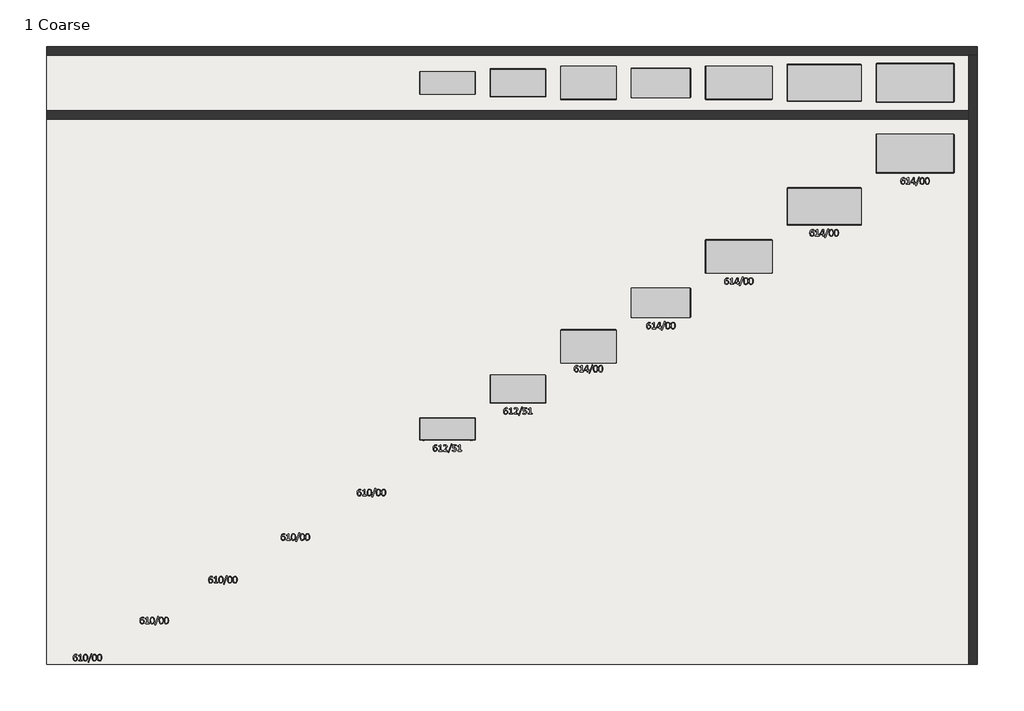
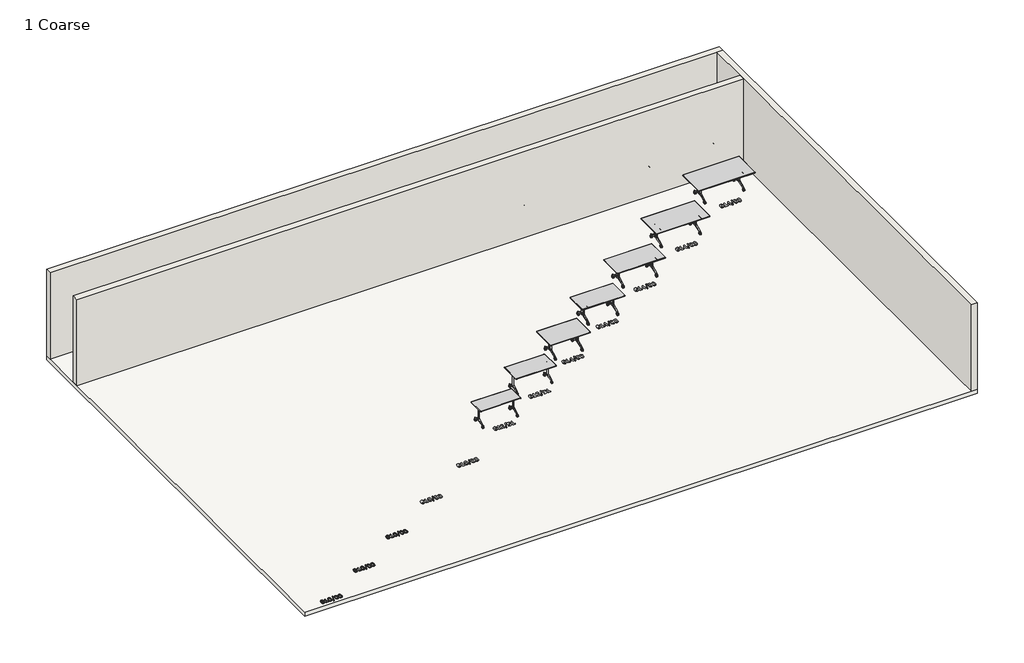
# One storey, part 1 of 3: 14 furniture elements, 3 proxies, 3 walls, 1 slab.
"""IFC4 building model written with IfcOpenShell, lengths in millimetres."""

from ifc_helpers import new_model, si_unit, frame, origin, origin_with_axes, place, context, project, spatial, polyline, outline, extrude, faceted_brep, transform, mapped, element, save
from components import furniture_fc034d58, furniture_6ae0472c, furniture_98f6b03f, furniture_4abeb202, furniture_3bb7f51b, furniture_f0da9923, furniture_7824c613, furniture_df3bc406, furniture_5a756c34, furniture_36a09803, furniture_ef3f2d50, furniture_3c179d77

model = new_model("IFC4")

# Units and contexts
model_context = context("Model", 3, world=origin())
ifc_project = project(units=[si_unit("LENGTHUNIT", "METRE", prefix="MILLI")], contexts=[model_context])

# Site, building, storey
site = spatial("IfcSite", under=ifc_project)
building = spatial("IfcBuilding", under=site)
storey = spatial("IfcBuildingStorey", under=building, Name="1 Coarse", Elevation=0.0)

# Proxies
placement = place(None, origin())
element("IfcBuildingElementProxy", 1, Name="200mm Arial", ObjectType="200mm Arial", at=placement, inside=storey, context=model_context, shape_type="SweptSolid", body=[
    extrude(outline(polyline([(-1646.5056259, -11263.2457008), (-1649.9123882, -11285.1463156), (-1660.4144374, -11303.7682418), (-1678.3959948, -11316.6780779), (-1704.0875931, -11321.5448812), (-1722.8375931, -11318.8809468), (-1737.0025522, -11311.2989795), (-1747.017921, -11299.2088156), (-1753.4472243, -11282.8409877), (-1756.9308308, -11262.7334058), (-1757.9810358, -11239.3215205), (-1756.8283718, -11216.9854549), (-1752.6787817, -11195.1616845), (-1744.5845194, -11175.412709), (-1731.8027571, -11159.3266435), (-1713.3857489, -11148.4916025), (-1688.4113636, -11144.4957008), (-1678.7289866, -11145.0336107), (-1669.6613636, -11146.4680369), (-1662.6685358, -11148.440373), (-1658.9287817, -11150.1821763), (-1657.5711997, -11151.6166025), (-1656.8539866, -11153.2815615), (-1656.4697653, -11155.3307418), (-1656.3416915, -11158.12275), (-1656.4185358, -11161.9649631), (-1656.9308308, -11164.7057418), (-1658.0834948, -11166.2682418), (-1659.9277571, -11166.7805369), (-1663.7955849, -11165.8584058), (-1669.7125931, -11163.8348402), (-1678.1398472, -11161.8112746), (-1689.6408718, -11160.8891435), (-1710.2351341, -11166.1145533), (-1724.3232489, -11180.1514386), (-1732.4175112, -11200.5920123), (-1735.4400522, -11224.4137336), (-1727.7812407, -11220.4434468), (-1718.4574702, -11216.9086107), (-1707.8017325, -11214.3471353), (-1695.7371833, -11213.3481599), (-1672.5814456, -11217.1391435), (-1657.3150522, -11227.6411927), (-1648.9902571, -11243.4711107), (-1646.5056259, -11263.2457008)]), holes=[polyline([(-1669.4564456, -11263.9116845), (-1670.9677161, -11249.7979549), (-1675.9882079, -11238.9885287), (-1685.3888227, -11232.1493894), (-1699.8867735, -11229.7416025), (-1709.5435358, -11230.6125041), (-1718.892921, -11233.020291), (-1727.5250931, -11236.6319713), (-1735.0302161, -11241.1145533), (-1732.8785768, -11270.0848402), (-1726.602962, -11288.7836107), (-1716.3570604, -11298.850209), (-1701.9871833, -11301.87275), (-1687.4892325, -11298.645291), (-1677.2945604, -11289.9875041), (-1671.3519374, -11277.7948812), (-1669.4564456, -11263.9116845)])]), origin_with_axes(), (0.0, 0.0, 1.0), 25.0),
    extrude(outline(polyline([(-1512.0793964, -11308.5838156), (-1512.4636177, -11313.1432418), (-1513.5138227, -11316.1401681), (-1515.0250931, -11317.7795123), (-1516.7925112, -11318.2661927), (-1605.7269374, -11318.2661927), (-1607.4175112, -11317.7795123), (-1608.9287817, -11316.1401681), (-1610.0558308, -11313.1432418), (-1610.4400522, -11308.5838156), (-1610.0558308, -11304.1524631), (-1609.0824702, -11301.0786927), (-1607.6736587, -11299.2344304), (-1605.8293964, -11298.5940615), (-1571.0957899, -11298.5940615), (-1571.0957899, -11170.725209), (-1602.7043964, -11190.3973402), (-1606.5722243, -11191.9598402), (-1608.9287817, -11191.3707008), (-1610.1326751, -11188.5786927), (-1610.4400522, -11183.6862746), (-1610.2607489, -11179.9465205), (-1609.6972243, -11177.3594304), (-1608.6214046, -11175.5407828), (-1606.7515276, -11174.0038976), (-1568.99538, -11149.3112746), (-1565.6398472, -11148.1842254), (-1562.847839, -11147.8512336), (-1558.8519374, -11147.7743894), (-1553.4984538, -11148.0305369), (-1550.1685358, -11148.74775), (-1548.5548063, -11149.9260287), (-1548.5548063, -11298.5940615), (-1516.8949702, -11298.5940615), (-1514.8970194, -11299.2344304), (-1513.3601341, -11301.0786927), (-1512.4123882, -11304.1524631), (-1512.0793964, -11308.5838156)])), origin_with_axes(), (0.0, 0.0, 1.0), 25.0),
    extrude(outline(polyline([(-1367.8171013, -11232.6104549), (-1370.9164866, -11268.7784877), (-1381.2136177, -11296.877873), (-1389.5127981, -11307.3094816), (-1400.0148472, -11315.0899631), (-1412.9695091, -11319.9311517), (-1428.6265276, -11321.5448812), (-1443.4446628, -11320.0976476), (-1455.7269374, -11315.7559468), (-1465.665462, -11308.6094304), (-1473.4523472, -11298.74775), (-1483.0066505, -11271.1094304), (-1485.8498882, -11233.4301271), (-1482.6736587, -11197.3389386), (-1472.3765276, -11169.162709), (-1464.1349804, -11158.7311004), (-1453.6521423, -11150.9506189), (-1440.7359026, -11146.1094304), (-1425.1941505, -11144.4957008), (-1410.2607489, -11145.9429345), (-1397.9400522, -11150.2846353), (-1388.0015276, -11157.4311517), (-1380.2146423, -11167.292832), (-1370.660339, -11194.9311517), (-1367.8171013, -11232.6104549)]), holes=[polyline([(-1390.767921, -11234.1985697), (-1391.6900522, -11211.3758238), (-1394.4052161, -11193.5223402), (-1399.0671013, -11180.2282828), (-1405.9062407, -11171.0582008), (-1414.9994784, -11165.8071763), (-1426.5261177, -11164.167832), (-1444.8406669, -11169.4188566), (-1455.9318554, -11183.8399631), (-1461.4390276, -11205.3307418), (-1462.8990686, -11231.8420123), (-1460.9011177, -11264.167832), (-1454.5998882, -11285.8891435), (-1443.585544, -11298.0817664), (-1427.2945604, -11301.87275), (-1414.205421, -11299.5161927), (-1404.4974292, -11292.7538976), (-1397.8119784, -11282.2006189), (-1393.5599292, -11268.5735697), (-1391.3570604, -11252.3594304), (-1390.767921, -11234.1985697)])]), origin_with_axes(), (0.0, 0.0, 1.0), 25.0),
    extrude(outline(polyline([(-1335.9011177, -11349.1063566), (-1337.3099292, -11351.770291), (-1339.4615686, -11353.2815615), (-1342.6890276, -11354.0756189), (-1347.3252981, -11354.3317664), (-1352.7812407, -11353.8707008), (-1356.1367735, -11352.5643484), (-1357.5711997, -11350.4639386), (-1357.0589046, -11347.5182418), (-1277.6531669, -11130.0489795), (-1276.2443554, -11127.3850451), (-1274.1439456, -11125.8225451), (-1270.9421013, -11125.0284877), (-1266.2289866, -11124.8235697), (-1260.8498882, -11125.2846353), (-1257.5711997, -11126.5397582), (-1256.1111587, -11128.6401681), (-1256.49538, -11131.6370943), (-1335.9011177, -11349.1063566)])), origin_with_axes(), (0.0, 0.0, 1.0), 25.0),
    extrude(outline(polyline([(-1125.1941505, -11232.6104549), (-1128.2935358, -11268.7784877), (-1138.5906669, -11296.877873), (-1146.8898472, -11307.3094816), (-1157.3918964, -11315.0899631), (-1170.3465583, -11319.9311517), (-1186.0035768, -11321.5448812), (-1200.821712, -11320.0976476), (-1213.1039866, -11315.7559468), (-1223.0425112, -11308.6094304), (-1230.8293964, -11298.74775), (-1240.3836997, -11271.1094304), (-1243.2269374, -11233.4301271), (-1240.0507079, -11197.3389386), (-1229.7535768, -11169.162709), (-1221.5120296, -11158.7311004), (-1211.0291915, -11150.9506189), (-1198.1129518, -11146.1094304), (-1182.5711997, -11144.4957008), (-1167.6377981, -11145.9429345), (-1155.3171013, -11150.2846353), (-1145.3785768, -11157.4311517), (-1137.5916915, -11167.292832), (-1128.0373882, -11194.9311517), (-1125.1941505, -11232.6104549)]), holes=[polyline([(-1148.1449702, -11234.1985697), (-1149.0671013, -11211.3758238), (-1151.7822653, -11193.5223402), (-1156.4441505, -11180.2282828), (-1163.2832899, -11171.0582008), (-1172.3765276, -11165.8071763), (-1183.9031669, -11164.167832), (-1202.2177161, -11169.4188566), (-1213.3089046, -11183.8399631), (-1218.8160768, -11205.3307418), (-1220.2761177, -11231.8420123), (-1218.2781669, -11264.167832), (-1211.9769374, -11285.8891435), (-1200.9625931, -11298.0817664), (-1184.6716095, -11301.87275), (-1171.5824702, -11299.5161927), (-1161.8744784, -11292.7538976), (-1155.1890276, -11282.2006189), (-1150.9369784, -11268.5735697), (-1148.7341095, -11252.3594304), (-1148.1449702, -11234.1985697)])]), origin_with_axes(), (0.0, 0.0, 1.0), 25.0),
    extrude(outline(polyline([(-987.4892325, -11232.6104549), (-990.5886177, -11268.7784877), (-1000.8857489, -11296.877873), (-1009.1849292, -11307.3094816), (-1019.6869784, -11315.0899631), (-1032.6416403, -11319.9311517), (-1048.2986587, -11321.5448812), (-1063.116794, -11320.0976476), (-1075.3990686, -11315.7559468), (-1085.3375931, -11308.6094304), (-1093.1244784, -11298.74775), (-1102.6787817, -11271.1094304), (-1105.5220194, -11233.4301271), (-1102.3457899, -11197.3389386), (-1092.0486587, -11169.162709), (-1083.8071116, -11158.7311004), (-1073.3242735, -11150.9506189), (-1060.4080337, -11146.1094304), (-1044.8662817, -11144.4957008), (-1029.93288, -11145.9429345), (-1017.6121833, -11150.2846353), (-1007.6736587, -11157.4311517), (-999.8867735, -11167.292832), (-990.3324702, -11194.9311517), (-987.4892325, -11232.6104549)]), holes=[polyline([(-1010.4400522, -11234.1985697), (-1011.3621833, -11211.3758238), (-1014.0773472, -11193.5223402), (-1018.7392325, -11180.2282828), (-1025.5783718, -11171.0582008), (-1034.6716095, -11165.8071763), (-1046.1982489, -11164.167832), (-1064.5127981, -11169.4188566), (-1075.6039866, -11183.8399631), (-1081.1111587, -11205.3307418), (-1082.5711997, -11231.8420123), (-1080.5732489, -11264.167832), (-1074.2720194, -11285.8891435), (-1063.2576751, -11298.0817664), (-1046.9666915, -11301.87275), (-1033.8775522, -11299.5161927), (-1024.1695604, -11292.7538976), (-1017.4841095, -11282.2006189), (-1013.2320604, -11268.5735697), (-1011.0291915, -11252.3594304), (-1010.4400522, -11234.1985697)])]), origin_with_axes(), (0.0, 0.0, 1.0), 25.0),
])
element("IfcBuildingElementProxy", 2, Name="200mm Arial", ObjectType="200mm Arial", at=placement, inside=storey, context=model_context, shape_type="SweptSolid", body=[
    extrude(outline(polyline([(153.4943741, -10263.0322854), (150.0876118, -10284.9329001), (139.5855626, -10303.5548264), (121.6040052, -10316.4646624), (95.9124069, -10321.3314657), (77.1624069, -10318.6675313), (62.9974478, -10311.0855641), (52.982079, -10298.9954001), (46.5527757, -10282.6275723), (43.0691692, -10262.5199903), (42.0189642, -10239.1081051), (43.1716282, -10216.7720395), (47.3212183, -10194.948269), (55.4154806, -10175.1992936), (68.1972429, -10159.113228), (86.6142511, -10148.278187), (111.5886364, -10144.2822854), (121.2710134, -10144.8201952), (130.3386364, -10146.2546214), (137.3314642, -10148.2269575), (141.0712183, -10149.9687608), (142.4288003, -10151.403187), (143.1460134, -10153.068146), (143.5302347, -10155.1173264), (143.6583085, -10157.9093346), (143.5814642, -10161.7515477), (143.0691692, -10164.4923264), (141.9165052, -10166.0548264), (140.0722429, -10166.5671214), (136.2044151, -10165.6449903), (130.2874069, -10163.6214247), (121.8601528, -10161.5978592), (110.3591282, -10160.675728), (89.7648659, -10165.9011378), (75.6767511, -10179.9380231), (67.5824888, -10200.3785969), (64.5599478, -10224.2003182), (72.2187593, -10220.2300313), (81.5425298, -10216.6951952), (92.1982675, -10214.1337198), (104.2628167, -10213.1347444), (127.4185544, -10216.925728), (142.6849478, -10227.4277772), (151.0097429, -10243.2576952), (153.4943741, -10263.0322854)]), holes=[polyline([(130.5435544, -10263.698269), (129.0322839, -10249.5845395), (124.0117921, -10238.7751133), (114.6111773, -10231.9359739), (100.1132265, -10229.528187), (90.4564642, -10230.3990887), (81.107079, -10232.8068755), (72.4749069, -10236.4185559), (64.9697839, -10240.9011378), (67.1214232, -10269.8714247), (73.397038, -10288.5701952), (83.6429396, -10298.6367936), (98.0128167, -10301.6593346), (112.5107675, -10298.4318755), (122.7054396, -10289.7740887), (128.6480626, -10277.5814657), (130.5435544, -10263.698269)])]), origin_with_axes(), (0.0, 0.0, 1.0), 25.0),
    extrude(outline(polyline([(287.9206036, -10308.3704001), (287.5363823, -10312.9298264), (286.4861773, -10315.9267526), (284.9749069, -10317.5660969), (283.2074888, -10318.0527772), (194.2730626, -10318.0527772), (192.5824888, -10317.5660969), (191.0712183, -10315.9267526), (189.9441692, -10312.9298264), (189.5599478, -10308.3704001), (189.9441692, -10303.9390477), (190.9175298, -10300.8652772), (192.3263413, -10299.0210149), (194.1706036, -10298.380646), (228.9042101, -10298.380646), (228.9042101, -10170.5117936), (197.2956036, -10190.1839247), (193.4277757, -10191.7464247), (191.0712183, -10191.1572854), (189.8673249, -10188.3652772), (189.5599478, -10183.4728592), (189.7392511, -10179.7331051), (190.3027757, -10177.1460149), (191.3785954, -10175.3273674), (193.2484724, -10173.7904821), (231.00462, -10149.0978592), (234.3601528, -10147.97081), (237.152161, -10147.6378182), (241.1480626, -10147.5609739), (246.5015462, -10147.8171214), (249.8314642, -10148.5343346), (251.4451937, -10149.7126133), (251.4451937, -10298.380646), (283.1050298, -10298.380646), (285.1029806, -10299.0210149), (286.6398659, -10300.8652772), (287.5876118, -10303.9390477), (287.9206036, -10308.3704001)])), origin_with_axes(), (0.0, 0.0, 1.0), 25.0),
    extrude(outline(polyline([(432.1828987, -10232.3970395), (429.0835134, -10268.5650723), (418.7863823, -10296.6644575), (410.4872019, -10307.0960661), (399.9851528, -10314.8765477), (387.0304909, -10319.7177362), (371.3734724, -10321.3314657), (356.5553372, -10319.8842321), (344.2730626, -10315.5425313), (334.334538, -10308.3960149), (326.5476528, -10298.5343346), (316.9933495, -10270.8960149), (314.1501118, -10233.2167116), (317.3263413, -10197.1255231), (327.6234724, -10168.9492936), (335.8650196, -10158.517685), (346.3478577, -10150.7372034), (359.2640974, -10145.8960149), (374.8058495, -10144.2822854), (389.7392511, -10145.729519), (402.0599478, -10150.0712198), (411.9984724, -10157.2177362), (419.7853577, -10167.0794165), (429.339661, -10194.7177362), (432.1828987, -10232.3970395)]), holes=[polyline([(409.232079, -10233.9851542), (408.3099478, -10211.1624083), (405.5947839, -10193.3089247), (400.9328987, -10180.0148674), (394.0937593, -10170.8447854), (385.0005216, -10165.5937608), (373.4738823, -10163.9544165), (355.1593331, -10169.2054411), (344.0681446, -10183.6265477), (338.5609724, -10205.1173264), (337.1009314, -10231.6285969), (339.0988823, -10263.9544165), (345.4001118, -10285.675728), (356.414456, -10297.868351), (372.7054396, -10301.6593346), (385.794579, -10299.3027772), (395.5025708, -10292.5404821), (402.1880216, -10281.9872034), (406.4400708, -10268.3601542), (408.6429396, -10252.1460149), (409.232079, -10233.9851542)])]), origin_with_axes(), (0.0, 0.0, 1.0), 25.0),
    extrude(outline(polyline([(464.0988823, -10348.8929411), (462.6900708, -10351.5568755), (460.5384314, -10353.068146), (457.3109724, -10353.8622034), (452.6747019, -10354.118351), (447.2187593, -10353.6572854), (443.8632265, -10352.3509329), (442.4288003, -10350.2505231), (442.9410954, -10347.3048264), (522.3468331, -10129.8355641), (523.7556446, -10127.1716296), (525.8560544, -10125.6091296), (529.0578987, -10124.8150723), (533.7710134, -10124.6101542), (539.1501118, -10125.0712198), (542.4288003, -10126.3263428), (543.8888413, -10128.4267526), (543.50462, -10131.4236788), (464.0988823, -10348.8929411)])), origin_with_axes(), (0.0, 0.0, 1.0), 25.0),
    extrude(outline(polyline([(674.8058495, -10232.3970395), (671.7064642, -10268.5650723), (661.4093331, -10296.6644575), (653.1101528, -10307.0960661), (642.6081036, -10314.8765477), (629.6534417, -10319.7177362), (613.9964232, -10321.3314657), (599.178288, -10319.8842321), (586.8960134, -10315.5425313), (576.9574888, -10308.3960149), (569.1706036, -10298.5343346), (559.6163003, -10270.8960149), (556.7730626, -10233.2167116), (559.9492921, -10197.1255231), (570.2464232, -10168.9492936), (578.4879704, -10158.517685), (588.9708085, -10150.7372034), (601.8870482, -10145.8960149), (617.4288003, -10144.2822854), (632.3622019, -10145.729519), (644.6828987, -10150.0712198), (654.6214232, -10157.2177362), (662.4083085, -10167.0794165), (671.9626118, -10194.7177362), (674.8058495, -10232.3970395)]), holes=[polyline([(651.8550298, -10233.9851542), (650.9328987, -10211.1624083), (648.2177347, -10193.3089247), (643.5558495, -10180.0148674), (636.7167101, -10170.8447854), (627.6234724, -10165.5937608), (616.0968331, -10163.9544165), (597.7822839, -10169.2054411), (586.6910954, -10183.6265477), (581.1839232, -10205.1173264), (579.7238823, -10231.6285969), (581.7218331, -10263.9544165), (588.0230626, -10285.675728), (599.0374069, -10297.868351), (615.3283905, -10301.6593346), (628.4175298, -10299.3027772), (638.1255216, -10292.5404821), (644.8109724, -10281.9872034), (649.0630216, -10268.3601542), (651.2658905, -10252.1460149), (651.8550298, -10233.9851542)])]), origin_with_axes(), (0.0, 0.0, 1.0), 25.0),
    extrude(outline(polyline([(812.5107675, -10232.3970395), (809.4113823, -10268.5650723), (799.1142511, -10296.6644575), (790.8150708, -10307.0960661), (780.3130216, -10314.8765477), (767.3583597, -10319.7177362), (751.7013413, -10321.3314657), (736.883206, -10319.8842321), (724.6009314, -10315.5425313), (714.6624069, -10308.3960149), (706.8755216, -10298.5343346), (697.3212183, -10270.8960149), (694.4779806, -10233.2167116), (697.6542101, -10197.1255231), (707.9513413, -10168.9492936), (716.1928884, -10158.517685), (726.6757265, -10150.7372034), (739.5919663, -10145.8960149), (755.1337183, -10144.2822854), (770.06712, -10145.729519), (782.3878167, -10150.0712198), (792.3263413, -10157.2177362), (800.1132265, -10167.0794165), (809.6675298, -10194.7177362), (812.5107675, -10232.3970395)]), holes=[polyline([(789.5599478, -10233.9851542), (788.6378167, -10211.1624083), (785.9226528, -10193.3089247), (781.2607675, -10180.0148674), (774.4216282, -10170.8447854), (765.3283905, -10165.5937608), (753.8017511, -10163.9544165), (735.4872019, -10169.2054411), (724.3960134, -10183.6265477), (718.8888413, -10205.1173264), (717.4288003, -10231.6285969), (719.4267511, -10263.9544165), (725.7279806, -10285.675728), (736.7423249, -10297.868351), (753.0333085, -10301.6593346), (766.1224478, -10299.3027772), (775.8304396, -10292.5404821), (782.5158905, -10281.9872034), (786.7679396, -10268.3601542), (788.9708085, -10252.1460149), (789.5599478, -10233.9851542)])]), origin_with_axes(), (0.0, 0.0, 1.0), 25.0),
])
element("IfcBuildingElementProxy", 3, Name="200mm Arial", ObjectType="200mm Arial", at=placement, inside=storey, context=model_context, shape_type="SweptSolid", body=[
    extrude(outline(polyline([(2003.4943741, -9163.0322854), (2000.0876118, -9184.9329001), (1989.5855626, -9203.5548264), (1971.6040052, -9216.4646624), (1945.9124069, -9221.3314657), (1927.1624069, -9218.6675313), (1912.9974478, -9211.0855641), (1902.982079, -9198.9954001), (1896.5527757, -9182.6275723), (1893.0691692, -9162.5199903), (1892.0189642, -9139.1081051), (1893.1716282, -9116.7720395), (1897.3212183, -9094.948269), (1905.4154806, -9075.1992936), (1918.1972429, -9059.113228), (1936.6142511, -9048.278187), (1961.5886364, -9044.2822854), (1971.2710134, -9044.8201952), (1980.3386364, -9046.2546214), (1987.3314642, -9048.2269575), (1991.0712183, -9049.9687608), (1992.4288003, -9051.403187), (1993.1460134, -9053.068146), (1993.5302347, -9055.1173264), (1993.6583085, -9057.9093346), (1993.5814642, -9061.7515477), (1993.0691692, -9064.4923264), (1991.9165052, -9066.0548264), (1990.0722429, -9066.5671214), (1986.2044151, -9065.6449903), (1980.2874069, -9063.6214247), (1971.8601528, -9061.5978592), (1960.3591282, -9060.675728), (1939.7648659, -9065.9011378), (1925.6767511, -9079.9380231), (1917.5824888, -9100.3785969), (1914.5599478, -9124.2003182), (1922.2187593, -9120.2300313), (1931.5425298, -9116.6951952), (1942.1982675, -9114.1337198), (1954.2628167, -9113.1347444), (1977.4185544, -9116.925728), (1992.6849478, -9127.4277772), (2001.0097429, -9143.2576952), (2003.4943741, -9163.0322854)]), holes=[polyline([(1980.5435544, -9163.698269), (1979.0322839, -9149.5845395), (1974.0117921, -9138.7751133), (1964.6111773, -9131.9359739), (1950.1132265, -9129.528187), (1940.4564642, -9130.3990887), (1931.107079, -9132.8068755), (1922.4749069, -9136.4185559), (1914.9697839, -9140.9011378), (1917.1214232, -9169.8714247), (1923.397038, -9188.5701952), (1933.6429396, -9198.6367936), (1948.0128167, -9201.6593346), (1962.5107675, -9198.4318755), (1972.7054396, -9189.7740887), (1978.6480626, -9177.5814657), (1980.5435544, -9163.698269)])]), origin_with_axes(), (0.0, 0.0, 1.0), 25.0),
    extrude(outline(polyline([(2137.9206036, -9208.3704001), (2137.5363823, -9212.9298264), (2136.4861773, -9215.9267526), (2134.9749069, -9217.5660969), (2133.2074888, -9218.0527772), (2044.2730626, -9218.0527772), (2042.5824888, -9217.5660969), (2041.0712183, -9215.9267526), (2039.9441692, -9212.9298264), (2039.5599478, -9208.3704001), (2039.9441692, -9203.9390477), (2040.9175298, -9200.8652772), (2042.3263413, -9199.0210149), (2044.1706036, -9198.380646), (2078.9042101, -9198.380646), (2078.9042101, -9070.5117936), (2047.2956036, -9090.1839247), (2043.4277757, -9091.7464247), (2041.0712183, -9091.1572854), (2039.8673249, -9088.3652772), (2039.5599478, -9083.4728592), (2039.7392511, -9079.7331051), (2040.3027757, -9077.1460149), (2041.3785954, -9075.3273674), (2043.2484724, -9073.7904821), (2081.00462, -9049.0978592), (2084.3601528, -9047.97081), (2087.152161, -9047.6378182), (2091.1480626, -9047.5609739), (2096.5015462, -9047.8171214), (2099.8314642, -9048.5343346), (2101.4451937, -9049.7126133), (2101.4451937, -9198.380646), (2133.1050298, -9198.380646), (2135.1029806, -9199.0210149), (2136.6398659, -9200.8652772), (2137.5876118, -9203.9390477), (2137.9206036, -9208.3704001)])), origin_with_axes(), (0.0, 0.0, 1.0), 25.0),
    extrude(outline(polyline([(2282.1828987, -9132.3970395), (2279.0835134, -9168.5650723), (2268.7863823, -9196.6644575), (2260.4872019, -9207.0960661), (2249.9851528, -9214.8765477), (2237.0304909, -9219.7177362), (2221.3734724, -9221.3314657), (2206.5553372, -9219.8842321), (2194.2730626, -9215.5425313), (2184.334538, -9208.3960149), (2176.5476528, -9198.5343346), (2166.9933495, -9170.8960149), (2164.1501118, -9133.2167116), (2167.3263413, -9097.1255231), (2177.6234724, -9068.9492936), (2185.8650196, -9058.517685), (2196.3478577, -9050.7372034), (2209.2640974, -9045.8960149), (2224.8058495, -9044.2822854), (2239.7392511, -9045.729519), (2252.0599478, -9050.0712198), (2261.9984724, -9057.2177362), (2269.7853577, -9067.0794165), (2279.339661, -9094.7177362), (2282.1828987, -9132.3970395)]), holes=[polyline([(2259.232079, -9133.9851542), (2258.3099478, -9111.1624083), (2255.5947839, -9093.3089247), (2250.9328987, -9080.0148674), (2244.0937593, -9070.8447854), (2235.0005216, -9065.5937608), (2223.4738823, -9063.9544165), (2205.1593331, -9069.2054411), (2194.0681446, -9083.6265477), (2188.5609724, -9105.1173264), (2187.1009314, -9131.6285969), (2189.0988823, -9163.9544165), (2195.4001118, -9185.675728), (2206.414456, -9197.868351), (2222.7054396, -9201.6593346), (2235.794579, -9199.3027772), (2245.5025708, -9192.5404821), (2252.1880216, -9181.9872034), (2256.4400708, -9168.3601542), (2258.6429396, -9152.1460149), (2259.232079, -9133.9851542)])]), origin_with_axes(), (0.0, 0.0, 1.0), 25.0),
    extrude(outline(polyline([(2314.0988823, -9248.8929411), (2312.6900708, -9251.5568755), (2310.5384314, -9253.068146), (2307.3109724, -9253.8622034), (2302.6747019, -9254.118351), (2297.2187593, -9253.6572854), (2293.8632265, -9252.3509329), (2292.4288003, -9250.2505231), (2292.9410954, -9247.3048264), (2372.3468331, -9029.8355641), (2373.7556446, -9027.1716296), (2375.8560544, -9025.6091296), (2379.0578987, -9024.8150723), (2383.7710134, -9024.6101542), (2389.1501118, -9025.0712198), (2392.4288003, -9026.3263428), (2393.8888413, -9028.4267526), (2393.50462, -9031.4236788), (2314.0988823, -9248.8929411)])), origin_with_axes(), (0.0, 0.0, 1.0), 25.0),
    extrude(outline(polyline([(2524.8058495, -9132.3970395), (2521.7064642, -9168.5650723), (2511.4093331, -9196.6644575), (2503.1101528, -9207.0960661), (2492.6081036, -9214.8765477), (2479.6534417, -9219.7177362), (2463.9964232, -9221.3314657), (2449.178288, -9219.8842321), (2436.8960134, -9215.5425313), (2426.9574888, -9208.3960149), (2419.1706036, -9198.5343346), (2409.6163003, -9170.8960149), (2406.7730626, -9133.2167116), (2409.9492921, -9097.1255231), (2420.2464232, -9068.9492936), (2428.4879704, -9058.517685), (2438.9708085, -9050.7372034), (2451.8870482, -9045.8960149), (2467.4288003, -9044.2822854), (2482.3622019, -9045.729519), (2494.6828987, -9050.0712198), (2504.6214232, -9057.2177362), (2512.4083085, -9067.0794165), (2521.9626118, -9094.7177362), (2524.8058495, -9132.3970395)]), holes=[polyline([(2501.8550298, -9133.9851542), (2500.9328987, -9111.1624083), (2498.2177347, -9093.3089247), (2493.5558495, -9080.0148674), (2486.7167101, -9070.8447854), (2477.6234724, -9065.5937608), (2466.0968331, -9063.9544165), (2447.7822839, -9069.2054411), (2436.6910954, -9083.6265477), (2431.1839232, -9105.1173264), (2429.7238823, -9131.6285969), (2431.7218331, -9163.9544165), (2438.0230626, -9185.675728), (2449.0374069, -9197.868351), (2465.3283905, -9201.6593346), (2478.4175298, -9199.3027772), (2488.1255216, -9192.5404821), (2494.8109724, -9181.9872034), (2499.0630216, -9168.3601542), (2501.2658905, -9152.1460149), (2501.8550298, -9133.9851542)])]), origin_with_axes(), (0.0, 0.0, 1.0), 25.0),
    extrude(outline(polyline([(2662.5107675, -9132.3970395), (2659.4113823, -9168.5650723), (2649.1142511, -9196.6644575), (2640.8150708, -9207.0960661), (2630.3130216, -9214.8765477), (2617.3583597, -9219.7177362), (2601.7013413, -9221.3314657), (2586.883206, -9219.8842321), (2574.6009314, -9215.5425313), (2564.6624069, -9208.3960149), (2556.8755216, -9198.5343346), (2547.3212183, -9170.8960149), (2544.4779806, -9133.2167116), (2547.6542101, -9097.1255231), (2557.9513413, -9068.9492936), (2566.1928884, -9058.517685), (2576.6757265, -9050.7372034), (2589.5919663, -9045.8960149), (2605.1337183, -9044.2822854), (2620.06712, -9045.729519), (2632.3878167, -9050.0712198), (2642.3263413, -9057.2177362), (2650.1132265, -9067.0794165), (2659.6675298, -9094.7177362), (2662.5107675, -9132.3970395)]), holes=[polyline([(2639.5599478, -9133.9851542), (2638.6378167, -9111.1624083), (2635.9226528, -9093.3089247), (2631.2607675, -9080.0148674), (2624.4216282, -9070.8447854), (2615.3283905, -9065.5937608), (2603.8017511, -9063.9544165), (2585.4872019, -9069.2054411), (2574.3960134, -9083.6265477), (2568.8888413, -9105.1173264), (2567.4288003, -9131.6285969), (2569.4267511, -9163.9544165), (2575.7279806, -9185.675728), (2586.7423249, -9197.868351), (2603.0333085, -9201.6593346), (2616.1224478, -9199.3027772), (2625.8304396, -9192.5404821), (2632.5158905, -9181.9872034), (2636.7679396, -9168.3601542), (2638.9708085, -9152.1460149), (2639.5599478, -9133.9851542)])]), origin_with_axes(), (0.0, 0.0, 1.0), 25.0),
])

# Furniture
furniture_shape = furniture_fc034d58(model_context)
furniture_2_shape = furniture_6ae0472c(model_context)
element("IfcFurniture", 4, ObjectType="Furniture_Wilkhahn_612-51_TimetableSmart : TIMETABLE SMART 612/51 1500L x 0600W", at=placement, inside=storey, context=model_context, shape_type="MappedRepresentation", body=[
    mapped(furniture_shape, transform((8324.6255216, 4136.9960684, 0.0), x_axis=(1.0, 0.0, 0.0), y_axis=(0.0, 1.0, 0.0), z_axis=(0.0, 0.0, 1.0))),
    mapped(furniture_2_shape, transform((8324.6255216, 4136.9960684, 0.0), x_axis=(1.0, 0.0, 0.0), y_axis=(0.0, 1.0, 0.0), z_axis=(0.0, 0.0, 1.0))),
])
element("IfcFurniture", 5, ObjectType="Furniture_Wilkhahn_612-51_TimetableSmart : TIMETABLE SMART 612/51 1500L x 0600W", at=placement, inside=storey, context=model_context, shape_type="MappedRepresentation", body=[
    mapped(furniture_shape, transform((8325.6255216, -5194.0039316, 0.0), x_axis=(1.0, 0.0, 0.0), y_axis=(0.0, 1.0, 0.0), z_axis=(0.0, 0.0, 1.0))),
    mapped(furniture_2_shape, transform((8325.6255216, -5194.0039316, 0.0), x_axis=(1.0, 0.0, 0.0), y_axis=(0.0, 1.0, 0.0), z_axis=(0.0, 0.0, 1.0))),
])
furniture_3_shape = furniture_98f6b03f(model_context)
element("IfcFurniture", 6, ObjectType="Furniture_Wilkhahn_612-51_TimetableSmart : TIMETABLE SMART 612/51 1500L x 0750W", at=placement, inside=storey, context=model_context, shape_type="MappedRepresentation", body=[
    mapped(furniture_shape, transform((10224.6255216, 4136.9960684, 0.0), x_axis=(1.0, 0.0, 0.0), y_axis=(0.0, 1.0, 0.0), z_axis=(0.0, 0.0, 1.0))),
    mapped(furniture_3_shape, transform((10224.6255216, 4136.9960684, 0.0), x_axis=(1.0, 0.0, 0.0), y_axis=(0.0, 1.0, 0.0), z_axis=(0.0, 0.0, 1.0))),
])
element("IfcFurniture", 7, ObjectType="Furniture_Wilkhahn_612-51_TimetableSmart : TIMETABLE SMART 612/51 1500L x 0750W", at=placement, inside=storey, context=model_context, shape_type="MappedRepresentation", body=[
    mapped(furniture_shape, transform((10225.6255216, -4119.0039316, 0.0), x_axis=(1.0, 0.0, 0.0), y_axis=(0.0, 1.0, 0.0), z_axis=(0.0, 0.0, 1.0))),
    mapped(furniture_3_shape, transform((10225.6255216, -4119.0039316, 0.0), x_axis=(1.0, 0.0, 0.0), y_axis=(0.0, 1.0, 0.0), z_axis=(0.0, 0.0, 1.0))),
])
furniture_4_shape = furniture_4abeb202(model_context)
furniture_5_shape = furniture_3bb7f51b(model_context)
element("IfcFurniture", 8, ObjectType="Furniture_Wilkhahn_614-00_TimetableShift : TIMETABLE SHIFT 614/00 1600L x 0800W", at=placement, inside=storey, context=model_context, shape_type="MappedRepresentation", body=[
    mapped(furniture_4_shape, transform((14075.6255216, 4361.9960684, 0.0), x_axis=(1.0, 0.0, 0.0), y_axis=(0.0, 1.0, 0.0), z_axis=(0.0, 0.0, 1.0))),
    mapped(furniture_5_shape, transform((14075.6255216, 4361.9960684, 0.0), x_axis=(1.0, 0.0, 0.0), y_axis=(0.0, 1.0, 0.0), z_axis=(0.0, 0.0, 1.0))),
])
element("IfcFurniture", 9, ObjectType="Furniture_Wilkhahn_614-00_TimetableShift : TIMETABLE SHIFT 614/00 1600L x 0800W", at=placement, inside=storey, context=model_context, shape_type="MappedRepresentation", body=[
    mapped(furniture_4_shape, transform((14075.6255216, -1568.0039316, 0.0), x_axis=(1.0, 0.0, 0.0), y_axis=(0.0, 1.0, 0.0), z_axis=(0.0, 0.0, 1.0))),
    mapped(furniture_5_shape, transform((14075.6255216, -1568.0039316, 0.0), x_axis=(1.0, 0.0, 0.0), y_axis=(0.0, 1.0, 0.0), z_axis=(0.0, 0.0, 1.0))),
])
furniture_6_shape = furniture_f0da9923(model_context)
furniture_7_shape = furniture_7824c613(model_context)
element("IfcFurniture", 10, ObjectType="Furniture_Wilkhahn_614-00_TimetableShift : TIMETABLE SHIFT 614/00 1800L x 0900W", at=placement, inside=storey, context=model_context, shape_type="MappedRepresentation", body=[
    mapped(furniture_6_shape, transform((16175.6255216, 4361.9960684, 0.0), x_axis=(1.0, 0.0, 0.0), y_axis=(0.0, 1.0, 0.0), z_axis=(0.0, 0.0, 1.0))),
    mapped(furniture_7_shape, transform((16175.6255216, 4361.9960684, 0.0), x_axis=(1.0, 0.0, 0.0), y_axis=(0.0, 1.0, 0.0), z_axis=(0.0, 0.0, 1.0))),
])
element("IfcFurniture", 11, ObjectType="Furniture_Wilkhahn_614-00_TimetableShift : TIMETABLE SHIFT 614/00 1800L x 0900W", at=placement, inside=storey, context=model_context, shape_type="MappedRepresentation", body=[
    mapped(furniture_6_shape, transform((16175.6255216, -318.0039316, 0.0), x_axis=(1.0, 0.0, 0.0), y_axis=(0.0, 1.0, 0.0), z_axis=(0.0, 0.0, 1.0))),
    mapped(furniture_7_shape, transform((16175.6255216, -318.0039316, 0.0), x_axis=(1.0, 0.0, 0.0), y_axis=(0.0, 1.0, 0.0), z_axis=(0.0, 0.0, 1.0))),
])
furniture_8_shape = furniture_df3bc406(model_context)
furniture_9_shape = furniture_5a756c34(model_context)
element("IfcFurniture", 12, ObjectType="Furniture_Wilkhahn_614-00_TimetableShift : TIMETABLE SHIFT 614/00 2000L x 1000W", at=placement, inside=storey, context=model_context, shape_type="MappedRepresentation", body=[
    mapped(furniture_8_shape, transform((18475.6255216, 4361.9960684, 0.0), x_axis=(1.0, 0.0, 0.0), y_axis=(0.0, 1.0, 0.0), z_axis=(0.0, 0.0, 1.0))),
    mapped(furniture_9_shape, transform((18475.6255216, 4361.9960684, 0.0), x_axis=(1.0, 0.0, 0.0), y_axis=(0.0, 1.0, 0.0), z_axis=(0.0, 0.0, 1.0))),
])
element("IfcFurniture", 13, ObjectType="Furniture_Wilkhahn_614-00_TimetableShift : TIMETABLE SHIFT 614/00 2000L x 1000W", at=placement, inside=storey, context=model_context, shape_type="MappedRepresentation", body=[
    mapped(furniture_8_shape, transform((18475.6255216, 1031.9960684, 0.0), x_axis=(1.0, 0.0, 0.0), y_axis=(0.0, 1.0, 0.0), z_axis=(0.0, 0.0, 1.0))),
    mapped(furniture_9_shape, transform((18475.6255216, 1031.9960684, 0.0), x_axis=(1.0, 0.0, 0.0), y_axis=(0.0, 1.0, 0.0), z_axis=(0.0, 0.0, 1.0))),
])
furniture_10_shape = furniture_36a09803(model_context)
element("IfcFurniture", 14, ObjectType="Furniture_Wilkhahn_614-00_TimetableShift : TIMETABLE SHIFT 614/00 2100L x 1050W", at=placement, inside=storey, context=model_context, shape_type="MappedRepresentation", body=[
    mapped(furniture_8_shape, transform((20925.6255216, 4361.9960684, 0.0), x_axis=(1.0, 0.0, 0.0), y_axis=(0.0, 1.0, 0.0), z_axis=(0.0, 0.0, 1.0))),
    mapped(furniture_10_shape, transform((20925.6255216, 4361.9960684, 0.0), x_axis=(1.0, 0.0, 0.0), y_axis=(0.0, 1.0, 0.0), z_axis=(0.0, 0.0, 1.0))),
])
element("IfcFurniture", 15, ObjectType="Furniture_Wilkhahn_614-00_TimetableShift : TIMETABLE SHIFT 614/00 2100L x 1050W", at=placement, inside=storey, context=model_context, shape_type="MappedRepresentation", body=[
    mapped(furniture_8_shape, transform((20925.6255216, 2456.9960684, 0.0), x_axis=(1.0, 0.0, 0.0), y_axis=(0.0, 1.0, 0.0), z_axis=(0.0, 0.0, 1.0))),
    mapped(furniture_10_shape, transform((20925.6255216, 2456.9960684, 0.0), x_axis=(1.0, 0.0, 0.0), y_axis=(0.0, 1.0, 0.0), z_axis=(0.0, 0.0, 1.0))),
])
furniture_11_shape = furniture_ef3f2d50(model_context)
furniture_12_shape = furniture_3c179d77(model_context)
element("IfcFurniture", 16, ObjectType="Furniture_Wilkhahn_614-00_TimetableShift : TIMETABLE SHIFT 614/00 1500L x 0900W", at=placement, inside=storey, context=model_context, shape_type="MappedRepresentation", body=[
    mapped(furniture_11_shape, transform((12125.6255216, 4361.9960684, 0.0), x_axis=(1.0, 0.0, 0.0), y_axis=(0.0, 1.0, 0.0), z_axis=(0.0, 0.0, 1.0))),
    mapped(furniture_12_shape, transform((12125.6255216, 4361.9960684, 0.0), x_axis=(1.0, 0.0, 0.0), y_axis=(0.0, 1.0, 0.0), z_axis=(0.0, 0.0, 1.0))),
])
element("IfcFurniture", 17, ObjectType="Furniture_Wilkhahn_614-00_TimetableShift : TIMETABLE SHIFT 614/00 1500L x 0900W", at=placement, inside=storey, context=model_context, shape_type="MappedRepresentation", body=[
    mapped(furniture_11_shape, transform((12125.6255216, -2743.0039316, 0.0), x_axis=(1.0, 0.0, 0.0), y_axis=(0.0, 1.0, 0.0), z_axis=(0.0, 0.0, 1.0))),
    mapped(furniture_12_shape, transform((12125.6255216, -2743.0039316, 0.0), x_axis=(1.0, 0.0, 0.0), y_axis=(0.0, 1.0, 0.0), z_axis=(0.0, 0.0, 1.0))),
])

# Slab
element("IfcSlab", 18, ObjectType="Tiled on Concrete150mm", at=placement, inside=storey, context=model_context, shape_type="SweptSolid", body=[
    extrude(outline(polyline([(22605.6255216, -11418.0527772), (-2475.3744784, -11418.0527772), (-2475.3744784, 5242.9472228), (22605.6255216, 5242.9472228), (22605.6255216, -11418.0527772)])), frame((0.0, 0.0, -160.0), z_axis=(0.0, 0.0, 1.0), x_axis=(1.0, 0.0, 0.0)), (0.0, 0.0, 1.0), 160.0),
])

# Walls
element("IfcWall", 19, ObjectType="Brick Adobe", at=placement, inside=storey, context=model_context, shape_type="Brep", body=[
    faceted_brep([(-2475.3744784, 5012.9472228, 0.0), (22375.6255216, 5012.9472228, 0.0), (22605.6255216, 5012.9472228, 0.0), (22605.6255216, 5012.9472228, 3400.0), (22375.6255216, 5012.9472228, 3400.0), (-2475.3744784, 5012.9472228, 3400.0), (-2475.3744784, 5242.9472228, 0.0), (-2475.3744784, 5242.9472228, 3400.0), (22605.6255216, 5242.9472228, 3400.0), (22605.6255216, 5242.9472228, 0.0)], [[[0, 1, 2, 3, 4, 5]], [[6, 7, 8, 9]], [[2, 1, 0, 6, 9]], [[5, 4, 3, 8, 7]], [[0, 5, 7, 6]], [[3, 2, 9, 8]]]),
])
element("IfcWall", 20, ObjectType="Brick Adobe", at=placement, inside=storey, context=model_context, shape_type="SweptSolid", body=[
    extrude(outline(polyline([(22375.6255216, 3282.9472228), (-2475.3744784, 3282.9472228), (-2475.3744784, 3512.9472228), (22375.6255216, 3512.9472228), (22375.6255216, 3282.9472228)])), origin_with_axes(), (0.0, 0.0, 1.0), 3400.0),
])
element("IfcWall", 21, ObjectType="Brick Adobe", at=placement, inside=storey, context=model_context, shape_type="Brep", body=[
    faceted_brep([(22605.6255216, -11418.0527772, 0.0), (22605.6255216, 5012.9472228, 0.0), (22605.6255216, 5012.9472228, 3400.0), (22605.6255216, -11418.0527772, 3400.0), (22375.6255216, -11418.0527772, 0.0), (22375.6255216, -11418.0527772, 3400.0), (22375.6255216, 3282.9472228, 3400.0), (22375.6255216, 3512.9472228, 3400.0), (22375.6255216, 5012.9472228, 3400.0), (22375.6255216, 5012.9472228, 0.0), (22375.6255216, 3512.9472228, 0.0), (22375.6255216, 3282.9472228, 0.0)], [[[0, 1, 2, 3]], [[4, 5, 6, 7, 8, 9, 10, 11]], [[1, 0, 4, 11, 10, 9]], [[3, 2, 8, 7, 6, 5]], [[0, 3, 5, 4]], [[2, 1, 9, 8]]]),
])

save(model, "model.ifc")
